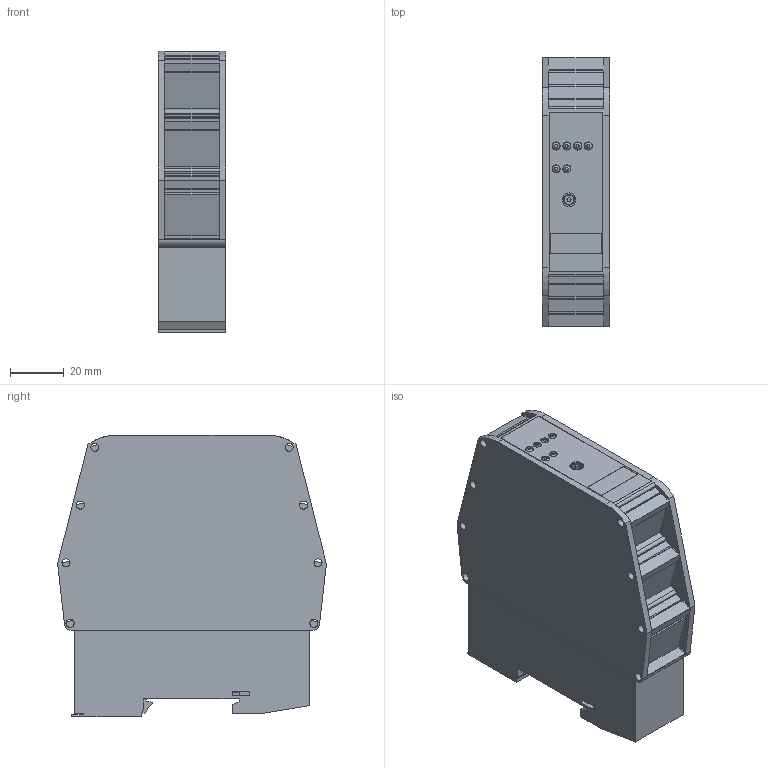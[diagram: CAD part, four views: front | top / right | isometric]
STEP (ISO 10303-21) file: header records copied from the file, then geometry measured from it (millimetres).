
FILE_DESCRIPTION( ( 'STEP AP203' ), '1' );
FILE_NAME( 'p:/temp/worker_35/temp/exporttempdir_672_982_YvLzu/format_0/AC2250.stp', '2022-02-14T11:30:15', ( 'License CC BY-ND 4.0' ), ( 'CADENAS' ), ' ', 'PARTsolutions', ' ' );
FILE_SCHEMA( ( 'CONFIG_CONTROL_DESIGN' ) );
Length unit declared in the file: millimetre
Products named in the file (1): _AC2250
Bounding box: 25.2 x 99.81 x 104.55 mm (x, y, z)
Volume: 216620.3 mm3; surface area: 31277.5 mm2
Topology: 1 solids, 1 shells, 223 faces, 610 edges, 389 vertices
Faces by surface type: plane 157, cylinder 53, torus 7, sphere 6
Full cylindrical faces by diameter (mm): 1.5 x1, 3 x22, 3.5 x1, 5.1 x1
Entity records: 6757 total; most frequent: CARTESIAN_POINT 1153, DIRECTION 1147, ORIENTED_EDGE 1112, EDGE_CURVE 556, LINE 413, VECTOR 413, VERTEX_POINT 373, AXIS2_PLACEMENT_3D 367
